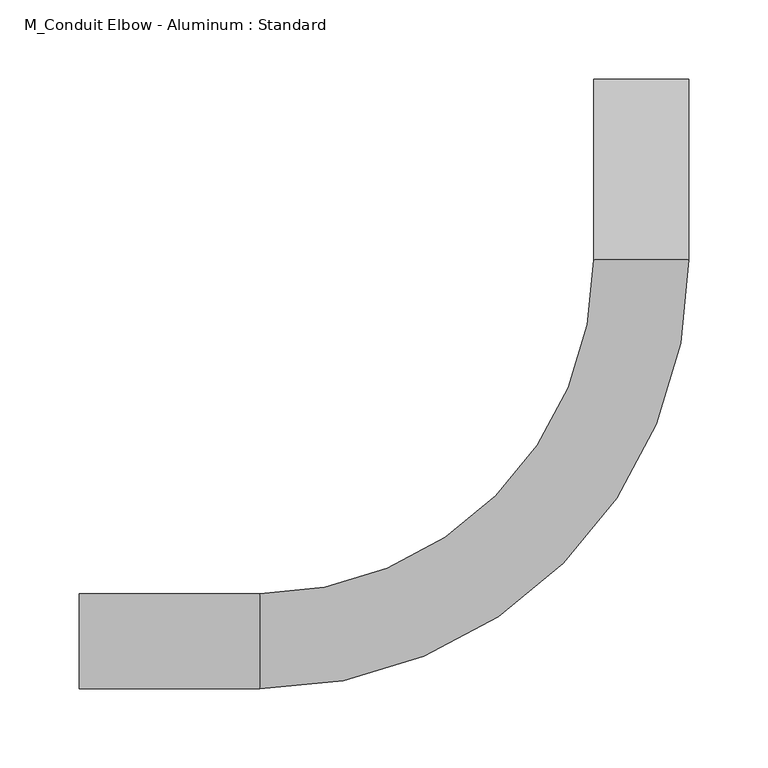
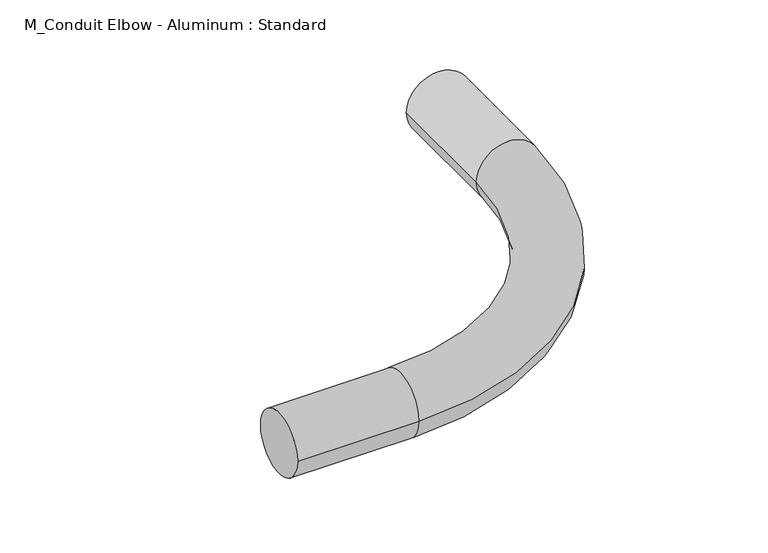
"""IFC4 building model written with IfcOpenShell, lengths in millimetres: cable carrier fitting geometry, M_Conduit Elbow - Aluminum : Standard."""

from ifc_helpers import new_model, si_unit, point, frame, origin, place, context, project, spatial, circle_curve, ellipse_curve, trimmed, source, transform, mapped, element, save
from ifc_brep_helpers import plane_surface, cylinder_surface, revolved_surface, advanced_brep


def m_conduit_elbow_aluminum_standard_a49322c3(model_context):
    return source(origin(), model_context, "Body", "AdvancedBrep", [
        advanced_brep(
        [(-355.6, -30.1625, 0.0), (-355.6, 30.1625, 0.0), (-241.3, -30.1625, 0.0), (-241.3, 30.1625, 0.0), (-30.1625, 241.3, 0.0), (30.1625, 241.3, 0.0), (30.1625, 355.6, 0.0), (-30.1625, 355.6, 0.0)],
        [
            (0, 1, circle_curve(frame((-355.6, 0.0, 0.0), z_axis=(-1.0, 0.0, 0.0), x_axis=(0.0, 1.0, 0.0)), 30.1625)),
            (1, 0, circle_curve(frame((-355.6, 0.0, 0.0), z_axis=(-1.0, 0.0, 0.0), x_axis=(0.0, 1.0, 0.0)), 30.1625)),
            (0, 2),
            (2, 3, circle_curve(frame((-241.3, 0.0, 0.0), z_axis=(-1.0, 0.0, 0.0), x_axis=(0.0, 1.0, 0.0)), 30.1625)),
            (3, 1),
            (3, 2, circle_curve(frame((-241.3, 0.0, 0.0), z_axis=(-1.0, 0.0, 0.0), x_axis=(0.0, 1.0, 0.0)), 30.1625)),
            (4, 3, circle_curve(frame((-241.3, 241.3, 0.0), z_axis=(0.0, 0.0, -1.0), x_axis=(0.0, -1.0, 0.0)), 211.1375)),
            (2, 5, circle_curve(frame((-241.3, 241.3, 0.0), z_axis=(0.0, 0.0, 1.0), x_axis=(0.0, -1.0, 0.0)), 271.4625)),
            (5, 4, circle_curve(frame((0.0, 241.3, 0.0), z_axis=(0.0, -1.0, 0.0), x_axis=(-1.0, 0.0, 0.0)), 30.1625)),
            (4, 5, circle_curve(frame((0.0, 241.3, 0.0), z_axis=(0.0, -1.0, 0.0), x_axis=(-1.0, 0.0, 0.0)), 30.1625)),
            (6, 7, circle_curve(frame((0.0, 355.6, 0.0), z_axis=(0.0, 1.0, 0.0), x_axis=(-1.0, 0.0, 0.0)), 30.1625)),
            (7, 6, circle_curve(frame((0.0, 355.6, 0.0), z_axis=(0.0, 1.0, 0.0), x_axis=(-1.0, 0.0, 0.0)), 30.1625)),
            (5, 6),
            (7, 4),
        ],
        [
            plane_surface(frame((-355.6, 0.0, 0.0), z_axis=(-1.0, 0.0, 0.0), x_axis=(0.0, 0.0, 1.0))),
            cylinder_surface(frame((-355.6, 0.0, 0.0), z_axis=(-1.0, 0.0, 0.0), x_axis=(0.0, 1.0, 0.0)), 30.1625),
            revolved_surface(trimmed(ellipse_curve(frame((-241.3, 0.0, 0.0), z_axis=(-1.0, 0.0, 0.0), x_axis=(0.0, 1.0, 0.0)), 30.1625, 30.1625), [point((-241.3, -30.1625, 0.0))], [point((-241.3, 30.1625, 0.0))], True, "CARTESIAN"), (-241.3, 241.3, 0.0), (0.0, 0.0, 1.0)),
            revolved_surface(trimmed(ellipse_curve(frame((-241.3, 0.0, 0.0), z_axis=(-1.0, 0.0, 0.0), x_axis=(0.0, 1.0, 0.0)), 30.1625, 30.1625), [point((-241.3, 30.1625, 0.0))], [point((-241.3, -30.1625, 0.0))], True, "CARTESIAN"), (-241.3, 241.3, 0.0), (0.0, 0.0, 1.0)),
            plane_surface(frame((0.0, 355.6, 0.0), z_axis=(0.0, 1.0, 0.0), x_axis=(0.0, 0.0, 1.0))),
            cylinder_surface(frame((0.0, 241.3, 0.0), z_axis=(0.0, -1.0, 0.0), x_axis=(-1.0, 0.0, 0.0)), 30.1625),
        ],
        [
            (0, [[1, 2]]),
            (1, [[-1, 3, 4, 5]]),
            (1, [[-2, -5, 6, -3]]),
            (2, [[7, -4, 8, 9]]),
            (3, [[-8, -6, -7, 10]]),
            (4, [[11, 12]]),
            (5, [[-9, 13, -12, 14]]),
            (5, [[-10, -14, -11, -13]]),
        ],
    ),
    ])


if __name__ == "__main__":
    model = new_model("IFC4")
    model_context = context("Model", 3, world=origin())
    ifc_project = project(units=[si_unit("LENGTHUNIT", "METRE", prefix="MILLI")], contexts=[model_context])
    site = spatial("IfcSite", under=ifc_project)
    building = spatial("IfcBuilding", under=site)
    placement = place(None, origin())
    m_conduit_elbow_aluminum_standard_shape = m_conduit_elbow_aluminum_standard_a49322c3(model_context)
    element("IfcCableCarrierFitting", 1, ObjectType="M_Conduit Elbow - Aluminum : Standard", at=placement, inside=building, context=model_context, shape_type="MappedRepresentation", body=[
        mapped(m_conduit_elbow_aluminum_standard_shape, transform((0.0, 0.0, 0.0), x_axis=(1.0, 0.0, 0.0), y_axis=(0.0, 1.0, 0.0), z_axis=(0.0, 0.0, 1.0))),
    ])
    save(model, "model.ifc")
